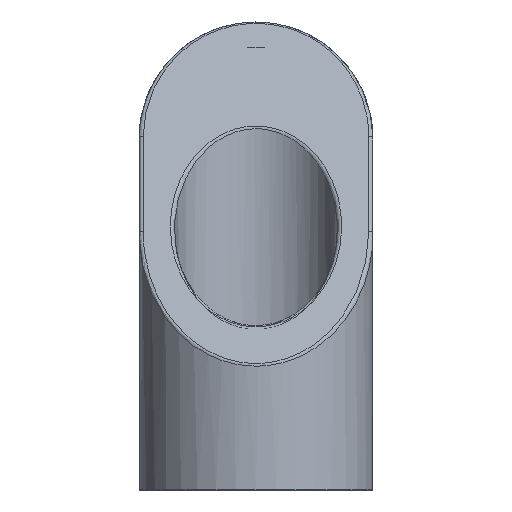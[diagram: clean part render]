
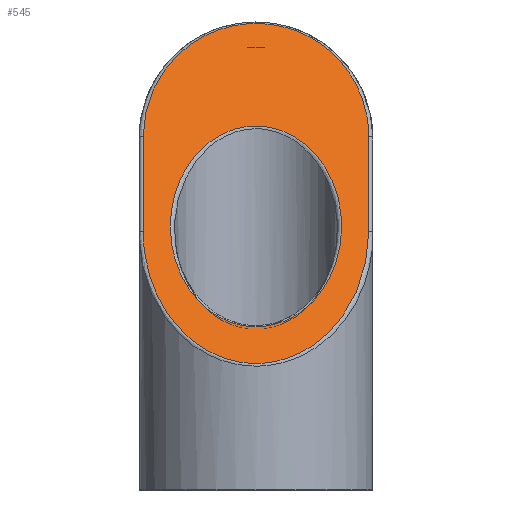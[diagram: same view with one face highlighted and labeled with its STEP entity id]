
A CAD part, left-side view. The second image highlights one B-rep face of the part: STEP entity #545.
In plain terms, the highlighted planar face has unit normal (-0.761, 0, 0.649).
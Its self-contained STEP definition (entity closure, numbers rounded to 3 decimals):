
#35=ELLIPSE('',#591,15.787,10.25);
#36=ELLIPSE('',#593,20.793,13.5);
#37=ELLIPSE('',#594,17.75,13.5);
#66=LINE('',#1109,#96);
#67=LINE('',#1112,#97);
#96=VECTOR('',#709,14.95);
#97=VECTOR('',#712,14.95);
#120=PLANE('',#592);
#142=FACE_BOUND('',#209,.T.);
#168=FACE_OUTER_BOUND('',#208,.T.);
#208=EDGE_LOOP('',(#450,#451,#452,#453));
#209=EDGE_LOOP('',(#454));
#292=VERTEX_POINT('',#1099);
#294=VERTEX_POINT('',#1105);
#295=VERTEX_POINT('',#1106);
#296=VERTEX_POINT('',#1108);
#297=VERTEX_POINT('',#1110);
#352=EDGE_CURVE('',#292,#292,#35,.T.);
#353=EDGE_CURVE('',#294,#295,#36,.T.);
#354=EDGE_CURVE('',#296,#294,#66,.T.);
#355=EDGE_CURVE('',#297,#296,#37,.T.);
#356=EDGE_CURVE('',#295,#297,#67,.T.);
#450=ORIENTED_EDGE('',*,*,#353,.F.);
#451=ORIENTED_EDGE('',*,*,#354,.F.);
#452=ORIENTED_EDGE('',*,*,#355,.F.);
#453=ORIENTED_EDGE('',*,*,#356,.F.);
#454=ORIENTED_EDGE('',*,*,#352,.F.);
#545=ADVANCED_FACE('',(#168,#142),#120,.T.);
#591=AXIS2_PLACEMENT_3D('',#1103,#703,#704);
#592=AXIS2_PLACEMENT_3D('',#1104,#705,#706);
#593=AXIS2_PLACEMENT_3D('',#1107,#707,#708);
#594=AXIS2_PLACEMENT_3D('',#1111,#710,#711);
#703=DIRECTION('center_axis',(-0.761,0.,0.649));
#704=DIRECTION('ref_axis',(0.649,0.,0.761));
#705=DIRECTION('center_axis',(-0.761,0.,0.649));
#706=DIRECTION('ref_axis',(0.649,0.,0.761));
#707=DIRECTION('center_axis',(0.761,0.,-0.649));
#708=DIRECTION('ref_axis',(-0.649,0.,-0.761));
#709=DIRECTION('',(-0.649,0.,-0.761));
#710=DIRECTION('center_axis',(0.761,0.,-0.649));
#711=DIRECTION('ref_axis',(0.649,0.,0.761));
#712=DIRECTION('',(0.649,0.,0.761));
#1099=CARTESIAN_POINT('',(3.87,0.,19.533));
#1103=CARTESIAN_POINT('Origin',(14.12,0.,31.54));
#1104=CARTESIAN_POINT('Origin',(0.,0.,15.));
#1105=CARTESIAN_POINT('',(13.62,-13.5,30.955));
#1106=CARTESIAN_POINT('',(13.62,13.5,30.955));
#1107=CARTESIAN_POINT('Origin',(13.62,0.,30.955));
#1108=CARTESIAN_POINT('',(23.326,-13.5,42.325));
#1109=CARTESIAN_POINT('',(14.802,-13.5,32.34));
#1110=CARTESIAN_POINT('',(23.326,13.5,42.325));
#1111=CARTESIAN_POINT('Origin',(23.326,0.,42.325));
#1112=CARTESIAN_POINT('',(5.781,13.5,21.772));
